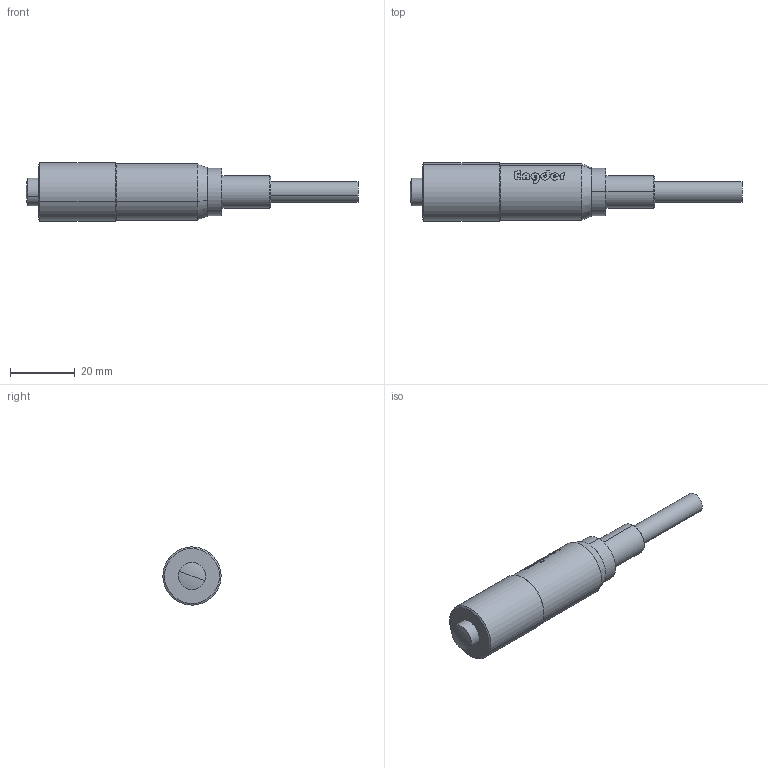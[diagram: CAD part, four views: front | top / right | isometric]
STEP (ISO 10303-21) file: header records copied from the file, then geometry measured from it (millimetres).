
FILE_DESCRIPTION (( 'STEP AP203' ), '1' );
FILE_NAME ('MT25-3_Customer.STEP', '2019-02-13T12:14:14', ( 'User' ), ( 'No' ), 'SwSTEP 2.0', 'SolidWorks 2012', '' );
FILE_SCHEMA (( 'CONFIG_CONTROL_DESIGN' ));
Length unit declared in the file: millimetre
Products named in the file (3): MT25-3_b-customer; MT25-3_a-customer; MT25-3_Customer
Assembly tree (2 placements, depth 2):
  MT25-3_Customer
    MT25-3_b-customer
    MT25-3_a-customer
Bounding box: 102.5 x 18 x 18 mm (x, y, z)
Volume: 14654.5 mm3; surface area: 9763.3 mm2
Topology: 2 solids, 2 shells, 130 faces, 327 edges, 211 vertices
Faces by surface type: bspline 49, plane 39, cylinder 28, cone 8, torus 6
Entity records: 9912 total; most frequent: CARTESIAN_POINT 6880, ORIENTED_EDGE 650, DIRECTION 428, EDGE_CURVE 325, VERTEX_POINT 211, AXIS2_PLACEMENT_3D 180, B_SPLINE_CURVE_WITH_KNOTS 163, EDGE_LOOP 144
